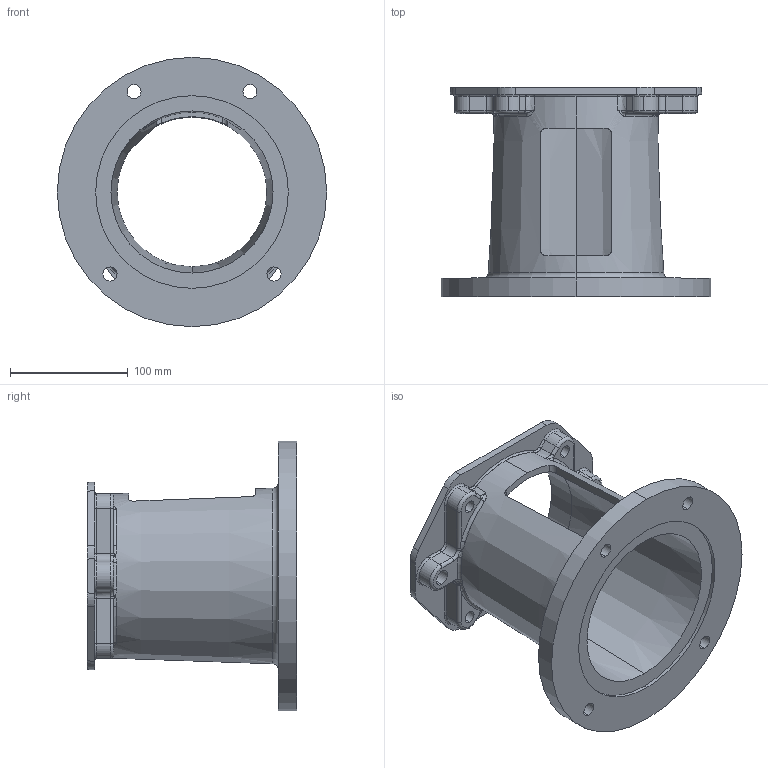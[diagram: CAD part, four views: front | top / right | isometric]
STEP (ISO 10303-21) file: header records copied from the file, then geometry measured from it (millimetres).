
FILE_DESCRIPTION (( 'STEP AP203' ), '1' );
FILE_NAME ('E644702C.STEP', '2014-11-03T18:54:19', ( '' ), ( '' ), 'SwSTEP 2.0', 'SolidWorks 2014', '' );
FILE_SCHEMA (( 'CONFIG_CONTROL_DESIGN' ));
Length unit declared in the file: inch
Products named in the file (1): E644702C
Bounding box: 228.6 x 177.8 x 228.6 mm (x, y, z)
Volume: 935705.6 mm3; surface area: 233552.9 mm2
Topology: 1 solids, 1 shells, 197 faces, 500 edges, 302 vertices
Faces by surface type: cylinder 74, torus 48, bspline 36, plane 35, cone 4
Entity records: 7345 total; most frequent: CARTESIAN_POINT 2646, ORIENTED_EDGE 992, DIRECTION 982, EDGE_CURVE 496, AXIS2_PLACEMENT_3D 420, VERTEX_POINT 302, CIRCLE 258, EDGE_LOOP 222
